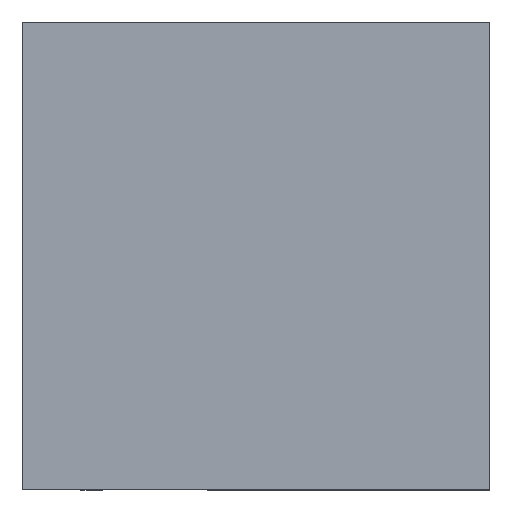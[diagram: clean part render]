
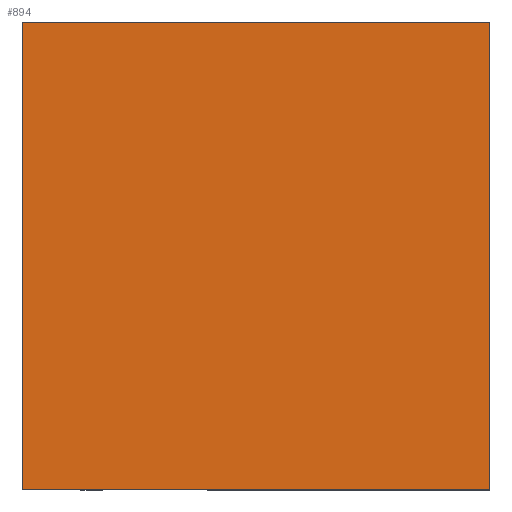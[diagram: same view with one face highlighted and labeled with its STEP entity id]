
A CAD part, top view. The second image highlights one B-rep face of the part: STEP entity #894.
In plain terms, the highlighted planar face has unit normal (0, 0, 1).
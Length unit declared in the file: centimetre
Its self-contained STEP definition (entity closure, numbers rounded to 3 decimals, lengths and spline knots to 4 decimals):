
#47 = EDGE_CURVE ( 'NONE', #408, #349, #415, .T. ) ;
#55 = DIRECTION ( 'NONE',  ( 0., -1., 0. ) ) ;
#129 = ORIENTED_EDGE ( 'NONE', *, *, #475, .T. ) ;
#134 = EDGE_LOOP ( 'NONE', ( #881, #607, #453, #129 ) ) ;
#137 = CARTESIAN_POINT ( 'NONE',  ( 0., 1000., 1000. ) ) ;
#148 = VECTOR ( 'NONE', #736, 100. ) ;
#173 = AXIS2_PLACEMENT_3D ( 'NONE', #525, #655, #811 ) ;
#201 = VECTOR ( 'NONE', #423, 100. ) ;
#213 = VERTEX_POINT ( 'NONE', #925 ) ;
#279 = LINE ( 'NONE', #573, #201 ) ;
#349 = VERTEX_POINT ( 'NONE', #634 ) ;
#374 = VERTEX_POINT ( 'NONE', #907 ) ;
#408 = VERTEX_POINT ( 'NONE', #565 ) ;
#415 = LINE ( 'NONE', #137, #664 ) ;
#423 = DIRECTION ( 'NONE',  ( -1., 0., 0. ) ) ;
#453 = ORIENTED_EDGE ( 'NONE', *, *, #472, .T. ) ;
#472 = EDGE_CURVE ( 'NONE', #213, #374, #730, .T. ) ;
#475 = EDGE_CURVE ( 'NONE', #374, #408, #279, .T. ) ;
#506 = EDGE_CURVE ( 'NONE', #349, #213, #768, .T. ) ;
#525 = CARTESIAN_POINT ( 'NONE',  ( 0., 0., 1000. ) ) ;
#537 = CARTESIAN_POINT ( 'NONE',  ( 1000., 1000., 1000. ) ) ;
#565 = CARTESIAN_POINT ( 'NONE',  ( 0., 1000., 1000. ) ) ;
#573 = CARTESIAN_POINT ( 'NONE',  ( 0., 1000., 1000. ) ) ;
#575 = CARTESIAN_POINT ( 'NONE',  ( 0., 0., 1000. ) ) ;
#607 = ORIENTED_EDGE ( 'NONE', *, *, #506, .T. ) ;
#634 = CARTESIAN_POINT ( 'NONE',  ( 0., 0., 1000. ) ) ;
#655 = DIRECTION ( 'NONE',  ( 0., 0., 1. ) ) ;
#664 = VECTOR ( 'NONE', #55, 100. ) ;
#730 = LINE ( 'NONE', #537, #148 ) ;
#736 = DIRECTION ( 'NONE',  ( 0., 1., 0. ) ) ;
#768 = LINE ( 'NONE', #575, #822 ) ;
#805 = FACE_OUTER_BOUND ( 'NONE', #134, .T. ) ;
#811 = DIRECTION ( 'NONE',  ( 1., 0., 0. ) ) ;
#822 = VECTOR ( 'NONE', #851, 100. ) ;
#851 = DIRECTION ( 'NONE',  ( 1., 0., 0. ) ) ;
#881 = ORIENTED_EDGE ( 'NONE', *, *, #47, .T. ) ;
#882 = PLANE ( 'NONE',  #173 ) ;
#894 = ADVANCED_FACE ( 'NONE', ( #805 ), #882, .T. ) ;
#907 = CARTESIAN_POINT ( 'NONE',  ( 1000., 1000., 1000. ) ) ;
#925 = CARTESIAN_POINT ( 'NONE',  ( 1000., 0., 1000. ) ) ;
